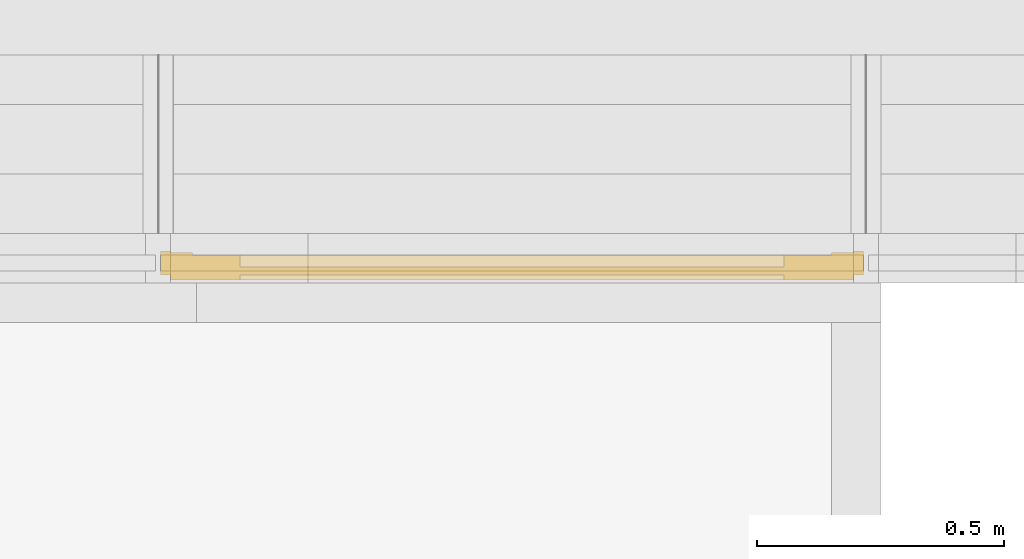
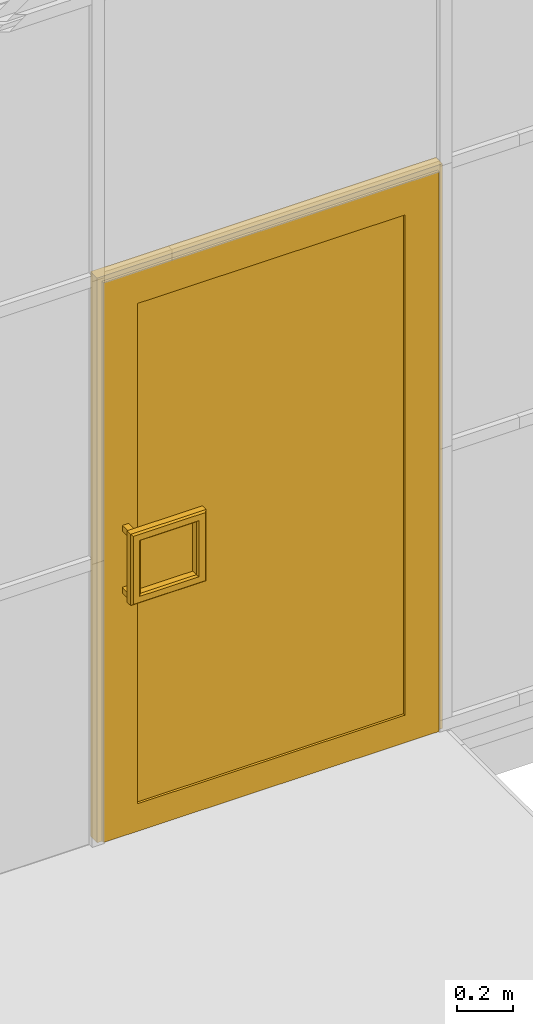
# One storey, part 239 of 260: 1 door, 1 element without a shape of its own.
"""IFC2X3 building model written with IfcOpenShell, lengths in millimetres."""

from ifc_helpers import new_model, entity, si_unit, converted_unit, derived_unit, money_unit, direction, frame, origin_with_axes, place, context, subcontext, project, spatial, faceted_brep, material, material_list, type_object, element, aggregate, save


model = new_model("IFC2X3")

# Units and contexts
model_context = context("Model", 3, precision=0.01, world=origin_with_axes(), true_north=direction((0.0, 1.0)))
body_context = subcontext(model_context, "Body", "Model", "MODEL_VIEW")
ifc_project = project(units=[si_unit("LENGTHUNIT", "METRE", prefix="MILLI"), si_unit("AREAUNIT", "SQUARE_METRE"), si_unit("VOLUMEUNIT", "CUBIC_METRE"), converted_unit("PLANEANGLEUNIT", "DEGREE", entity("IfcPlaneAngleMeasure", 0.0174532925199), si_unit("PLANEANGLEUNIT", "RADIAN"), dimensions=[0, 0, 0, 0, 0, 0, 0]), money_unit("EUR"), converted_unit("TIMEUNIT", "Year", entity("IfcTimeMeasure", 31556926.0), si_unit("TIMEUNIT", "SECOND"), dimensions=[0, 0, 1, 0, 0, 0, 0]), si_unit("MASSUNIT", "GRAM", prefix="KILO"), si_unit("THERMODYNAMICTEMPERATUREUNIT", "DEGREE_CELSIUS"), si_unit("LUMINOUSINTENSITYUNIT", "LUMEN"), si_unit("ENERGYUNIT", "JOULE", prefix="MEGA"), derived_unit("THERMALCONDUCTANCEUNIT", [(si_unit("POWERUNIT", "WATT"), 1), (si_unit("LENGTHUNIT", "METRE"), -1), (si_unit("THERMODYNAMICTEMPERATUREUNIT", "KELVIN"), -1)]), derived_unit("SPECIFICHEATCAPACITYUNIT", [(si_unit("ENERGYUNIT", "JOULE"), 1), (si_unit("MASSUNIT", "GRAM", prefix="KILO"), -1), (si_unit("THERMODYNAMICTEMPERATUREUNIT", "KELVIN"), -1)]), derived_unit("MASSDENSITYUNIT", [(si_unit("MASSUNIT", "GRAM", prefix="KILO"), 1), (si_unit("VOLUMEUNIT", "CUBIC_METRE"), -1)])], contexts=[model_context])

# Site, building, storey
site_placement = place(None, origin_with_axes())
site = spatial("IfcSite", under=ifc_project, at=site_placement, Name="Kolde pst 67a", CompositionType="ELEMENT")
building_placement = place(site_placement, origin_with_axes())
building = spatial("IfcBuilding", under=site, at=building_placement, Name="Riigigümnaasium", CompositionType="ELEMENT")
storey_placement = place(building_placement, origin_with_axes())
storey = spatial("IfcBuildingStorey", under=building, at=storey_placement, Name="1. korrus", CompositionType="ELEMENT", Elevation=0.0)

# Curtain wall, door
curtain_wall_type = type_object("IfcCurtainWallType", Name="Curtain Wall Type", PredefinedType="NOTDEFINED")
curtain_wall_placement = place(storey_placement, frame((47829.9854655, 8727.77020058, -0.000749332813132), z_axis=(0.0, 0.0, 1.0), x_axis=(1.0, 0.0, 0.0)))
curtain_wall = element("IfcCurtainWall", 1, at=curtain_wall_placement, inside=storey, type_object=curtain_wall_type, Name="KLAASFASSAAD")
ifc_material_1 = material(Name="_METALL - alumiinium")
ifc_material_2 = material(Name="_KLAAS - kirgas")
ifc_material_3 = material(Name="_METALL - teras")
ifc_material_4 = material(Name="Birch")
ifc_material_list = material_list([ifc_material_1, ifc_material_2, ifc_material_3, ifc_material_4])
door_style = type_object("IfcDoorStyle", Name="1122 x 1225 x 48", ConstructionType="NOTDEFINED", OperationType="SINGLE_SWING_LEFT", ParameterTakesPrecedence=False, Sizeable=False)
door_placement = place(curtain_wall_placement, frame((4982.63433096, -1457.77144978, 1230.00073817), z_axis=(0.0, 0.0, 1.0), x_axis=(-1.0, 2.70881141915e-07, 0.0)))
door = element("IfcDoor", 2, at=door_placement, type_object=door_style, material=ifc_material_list, Name="Peauks", ObjectType="DOOR", OverallHeight=2435.0, OverallWidth=1380.0, context=body_context, shape_type="Brep", body=[
    faceted_brep([(586.97709533, -20.9999996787, -1230.0000186), (586.977095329, -15.9999996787, -1230.0000186), (586.977095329, -15.9999996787, 1205.00001086), (586.97709533, -20.9999996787, 1205.00001086), (541.97709533, -20.9999996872, -1230.0000186), (541.977095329, -15.9999996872, -1230.0000186), (541.977095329, -15.9999996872, 1160.00001086), (541.97709533, -20.9999996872, 1160.00001086)], [[[0, 1, 2, 3]], [[4, 5, 1, 0]], [[1, 5, 6, 2]], [[3, 2, 6, 7]], [[0, 3, 7, 4]], [[7, 6, 5, 4]]]),
    faceted_brep([(-793.022921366, -20.9999999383, 1205.00001086), (-793.022921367, -15.9999999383, 1205.00001086), (-748.022921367, -15.9999999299, 1160.00001086), (-748.022921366, -20.9999999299, 1160.00001086), (586.97709533, -20.9999996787, 1205.00001086), (586.977095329, -15.9999996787, 1205.00001086), (541.977095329, -15.9999996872, 1160.00001086), (541.97709533, -20.9999996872, 1160.00001086)], [[[0, 1, 2, 3]], [[4, 5, 1, 0]], [[1, 5, 6, 2]], [[3, 2, 6, 7]], [[0, 3, 7, 4]], [[7, 6, 5, 4]]]),
    faceted_brep([(-793.022921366, -20.9999999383, -1230.0000186), (-793.022921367, -15.9999999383, -1230.0000186), (-748.022921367, -15.9999999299, -1230.0000186), (-748.022921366, -20.9999999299, -1230.0000186), (-793.022921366, -20.9999999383, 1205.00001086), (-793.022921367, -15.9999999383, 1205.00001086), (-748.022921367, -15.9999999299, 1160.00001086), (-748.022921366, -20.9999999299, 1160.00001086)], [[[0, 1, 2, 3]], [[4, 5, 1, 0]], [[1, 5, 6, 2]], [[3, 2, 6, 7]], [[0, 3, 7, 4]], [[7, 6, 5, 4]]]),
    faceted_brep([(586.977095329, -15.9999996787, -1230.0000186), (586.977095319, 34.0000003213, -1230.0000186), (586.977095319, 34.0000003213, 1205.00001086), (586.977095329, -15.9999996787, 1205.00001086), (566.977095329, -15.9999996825, -1230.0000186), (566.97709532, 34.0000003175, -1230.0000186), (566.97709532, 34.0000003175, 1185.00001086), (566.977095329, -15.9999996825, 1185.00001086)], [[[0, 1, 2, 3]], [[4, 5, 1, 0]], [[1, 5, 6, 2]], [[3, 2, 6, 7]], [[0, 3, 7, 4]], [[7, 6, 5, 4]]]),
    faceted_brep([(-793.022921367, -15.9999999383, 1205.00001086), (-793.022921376, 34.0000000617, 1205.00001086), (-773.022921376, 34.0000000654, 1185.00001086), (-773.022921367, -15.9999999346, 1185.00001086), (586.977095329, -15.9999996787, 1205.00001086), (586.977095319, 34.0000003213, 1205.00001086), (566.97709532, 34.0000003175, 1185.00001086), (566.977095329, -15.9999996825, 1185.00001086)], [[[0, 1, 2, 3]], [[4, 5, 1, 0]], [[1, 5, 6, 2]], [[3, 2, 6, 7]], [[0, 3, 7, 4]], [[7, 6, 5, 4]]]),
    faceted_brep([(-793.022921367, -15.9999999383, -1230.0000186), (-793.022921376, 34.0000000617, -1230.0000186), (-773.022921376, 34.0000000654, -1230.0000186), (-773.022921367, -15.9999999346, -1230.0000186), (-793.022921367, -15.9999999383, 1205.00001086), (-793.022921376, 34.0000000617, 1205.00001086), (-773.022921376, 34.0000000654, 1185.00001086), (-773.022921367, -15.9999999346, 1185.00001086)], [[[0, 1, 2, 3]], [[4, 5, 1, 0]], [[1, 5, 6, 2]], [[3, 2, 6, 7]], [[0, 3, 7, 4]], [[7, 6, 5, 4]]]),
    faceted_brep([(606.977095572, -23.999999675, -1230.0000186), (606.977095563, 24.000000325, -1230.0000186), (606.977095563, 24.000000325, 1225.0000111), (606.977095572, -23.999999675, 1225.0000111), (586.97709533, -23.9999996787, -1230.0000186), (586.977095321, 24.0000003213, -1230.0000186), (586.977095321, 24.0000003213, 1205.00001086), (586.97709533, -23.9999996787, 1205.00001086)], [[[0, 1, 2, 3]], [[4, 5, 1, 0]], [[1, 5, 6, 2]], [[3, 2, 6, 7]], [[0, 3, 7, 4]], [[7, 6, 5, 4]]]),
    faceted_brep([(606.977095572, -23.999999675, 1225.0000111), (606.977095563, 24.000000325, 1225.0000111), (-813.022921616, 24.0000000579, 1225.0000111), (-813.022921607, -23.9999999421, 1225.0000111), (586.97709533, -23.9999996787, 1205.00001086), (586.977095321, 24.0000003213, 1205.00001086), (-793.022921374, 24.0000000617, 1205.00001086), (-793.022921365, -23.9999999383, 1205.00001086)], [[[0, 1, 2, 3]], [[4, 5, 1, 0]], [[1, 5, 6, 2]], [[3, 2, 6, 7]], [[0, 3, 7, 4]], [[7, 6, 5, 4]]]),
    faceted_brep([(-813.022921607, -23.9999999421, 1225.0000111), (-813.022921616, 24.0000000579, 1225.0000111), (-813.022921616, 24.0000000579, -1230.0000186), (-813.022921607, -23.9999999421, -1230.0000186), (-793.022921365, -23.9999999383, 1205.00001086), (-793.022921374, 24.0000000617, 1205.00001086), (-793.022921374, 24.0000000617, -1230.0000186), (-793.022921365, -23.9999999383, -1230.0000186)], [[[0, 1, 2, 3]], [[4, 5, 1, 0]], [[1, 5, 6, 2]], [[3, 2, 6, 7]], [[0, 3, 7, 4]], [[7, 6, 5, 4]]]),
    faceted_brep([(-653.022921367, -15.999999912, -1110.0000186), (-653.022921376, 34.000000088, -1110.0000186), (-653.022921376, 34.000000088, 1065.00001086), (-653.022921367, -15.999999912, 1065.00001086), (-773.022921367, -15.9999999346, -1230.0000186), (-773.022921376, 34.0000000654, -1230.0000186), (-773.022921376, 34.0000000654, 1185.00001086), (-773.022921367, -15.9999999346, 1185.00001086)], [[[0, 1, 2, 3]], [[4, 5, 1, 0]], [[1, 5, 6, 2]], [[3, 2, 6, 7]], [[0, 3, 7, 4]], [[7, 6, 5, 4]]]),
    faceted_brep([(566.977095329, -15.9999996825, -1230.0000186), (566.97709532, 34.0000003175, -1230.0000186), (566.97709532, 34.0000003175, 1185.00001086), (566.977095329, -15.9999996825, 1185.00001086), (446.977095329, -15.9999997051, -1110.0000186), (446.97709532, 34.0000002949, -1110.0000186), (446.97709532, 34.0000002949, 1065.00001086), (446.977095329, -15.9999997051, 1065.00001086)], [[[0, 1, 2, 3]], [[4, 5, 1, 0]], [[1, 5, 6, 2]], [[3, 2, 6, 7]], [[0, 3, 7, 4]], [[7, 6, 5, 4]]]),
    faceted_brep([(566.977095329, -15.9999996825, -1230.0000186), (566.97709532, 34.0000003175, -1230.0000186), (446.97709532, 34.0000002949, -1110.0000186), (446.977095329, -15.9999997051, -1110.0000186), (-773.022921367, -15.9999999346, -1230.0000186), (-773.022921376, 34.0000000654, -1230.0000186), (-653.022921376, 34.000000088, -1110.0000186), (-653.022921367, -15.999999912, -1110.0000186)], [[[0, 1, 2, 3]], [[4, 5, 1, 0]], [[1, 5, 6, 2]], [[3, 2, 6, 7]], [[0, 3, 7, 4]], [[7, 6, 5, 4]]]),
    faceted_brep([(-773.022921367, -15.9999999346, 1185.00001086), (-773.022921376, 34.0000000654, 1185.00001086), (-653.022921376, 34.000000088, 1065.00001086), (-653.022921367, -15.999999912, 1065.00001086), (566.977095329, -15.9999996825, 1185.00001086), (566.97709532, 34.0000003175, 1185.00001086), (446.97709532, 34.0000002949, 1065.00001086), (446.977095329, -15.9999997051, 1065.00001086)], [[[0, 1, 2, 3]], [[4, 5, 1, 0]], [[1, 5, 6, 2]], [[3, 2, 6, 7]], [[0, 3, 7, 4]], [[7, 6, 5, 4]]]),
    faceted_brep([(-653.022921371, 8.00000008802, -1110.0000186), (-653.022921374, 24.000000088, -1110.0000186), (446.977095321, 24.0000002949, -1110.0000186), (446.977095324, 8.00000029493, -1110.0000186), (-653.022921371, 8.00000008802, 1065.00001086), (-653.022921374, 24.000000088, 1065.00001086), (446.977095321, 24.0000002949, 1065.00001086), (446.977095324, 8.00000029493, 1065.00001086)], [[[0, 1, 2, 3]], [[4, 5, 1, 0]], [[1, 5, 6, 2]], [[3, 2, 6, 7]], [[0, 3, 7, 4]], [[7, 6, 5, 4]]]),
    faceted_brep([(484.477095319, 34.000000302, -147.050018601), (509.47709532, 34.0000003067, -147.050018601), (509.477095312, 74.0000003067, -147.050018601), (484.477095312, 74.000000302, -147.050018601), (484.477095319, 34.000000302, -172.050018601), (509.47709532, 34.0000003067, -172.050018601), (509.477095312, 74.0000003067, -172.050018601), (484.477095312, 74.000000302, -172.050018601)], [[[0, 1, 2, 3]], [[0, 4, 5, 1]], [[1, 5, 6, 2]], [[3, 2, 6, 7]], [[4, 0, 3, 7]], [[5, 4, 7, 6]]]),
    faceted_brep([(484.027095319, 34.0000003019, 97.0499813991), (484.027095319, 34.0000003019, 122.049981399), (484.027095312, 74.0000003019, 122.049981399), (484.027095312, 74.0000003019, 97.0499813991), (509.02709532, 34.0000003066, 97.0499813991), (509.02709532, 34.0000003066, 122.049981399), (509.027095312, 74.0000003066, 122.049981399), (509.027095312, 74.0000003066, 97.0499813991)], [[[0, 1, 2, 3]], [[0, 4, 5, 1]], [[1, 5, 6, 2]], [[3, 2, 6, 7]], [[4, 0, 3, 7]], [[5, 4, 7, 6]]]),
    faceted_brep([(226.977095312, 74.0000002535, -160.000018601), (226.977095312, 74.0000002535, 109.999981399), (226.977095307, 99.0000002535, 109.999981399), (226.977095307, 99.0000002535, -160.000018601), (496.977095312, 74.0000003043, -160.000018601), (496.977095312, 74.0000003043, 109.999981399), (231.977095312, 74.0000002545, -155.000018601), (231.977095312, 74.0000002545, 104.999981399), (491.977095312, 74.0000003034, 104.999981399), (491.977095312, 74.0000003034, -155.000018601), (496.977095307, 99.0000003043, 109.999981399), (496.977095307, 99.0000003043, -160.000018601), (231.977095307, 99.0000002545, -155.000018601), (491.977095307, 99.0000003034, -155.000018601), (491.977095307, 99.0000003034, 104.999981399), (231.977095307, 99.0000002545, 104.999981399)], [[[0, 1, 2, 3]], [[0, 4, 5, 1], [6, 7, 8, 9]], [[1, 5, 10, 2]], [[3, 2, 10, 11], [12, 13, 14, 15]], [[4, 0, 3, 11]], [[5, 4, 11, 10]], [[7, 6, 12, 15]], [[8, 7, 15, 14]], [[9, 8, 14, 13]], [[6, 9, 13, 12]]]),
    faceted_brep([(246.977095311, 81.0500002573, -155.000018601), (239.927095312, 74.000000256, -155.000018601), (239.927095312, 74.000000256, -147.050018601), (246.977095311, 81.0500002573, -140.000018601), (491.977095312, 74.0000003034, -155.000018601), (246.977095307, 99.0000002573, -155.000018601), (491.977095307, 99.0000003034, -155.000018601), (491.977095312, 74.0000003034, -147.050018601), (491.977095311, 81.0500003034, -140.000018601), (246.977095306, 106.950000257, -140.000018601), (246.977095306, 106.950000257, -180.000018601), (246.977095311, 81.0500002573, -180.000018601), (246.977095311, 81.0500002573, -160.000018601), (246.977095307, 99.0000002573, -160.000018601), (496.977095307, 99.0000003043, -160.000018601), (496.977095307, 99.0000003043, -140.000018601), (491.977095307, 99.0000003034, -140.000018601), (496.977095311, 81.0500003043, -140.000018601), (516.977095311, 81.0500003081, -140.000018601), (516.977095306, 106.950000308, -140.000018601), (239.927095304, 114.000000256, -147.050018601), (239.927095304, 114.000000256, -172.950018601), (516.977095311, 81.0500003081, -180.000018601), (516.977095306, 106.950000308, -180.000018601), (239.927095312, 74.000000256, -160.000018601), (239.927095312, 74.000000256, -172.950018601), (496.977095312, 74.0000003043, -160.000018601), (496.977095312, 74.0000003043, -147.050018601), (509.927095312, 74.0000003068, -147.050018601), (509.927095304, 114.000000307, -147.050018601), (509.927095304, 114.000000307, -172.950018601), (509.927095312, 74.0000003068, -172.950018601)], [[[0, 1, 2, 3]], [[4, 1, 0, 5, 6]], [[4, 7, 2, 1]], [[7, 8, 3, 2]], [[5, 0, 3, 9, 10, 11, 12, 13]], [[5, 13, 14, 15, 16, 6]], [[16, 8, 7, 4, 6]], [[15, 17, 18, 19, 9, 3, 8, 16]], [[10, 9, 20, 21]], [[22, 11, 10, 23]], [[24, 12, 11, 25]], [[12, 24, 26, 14, 13]], [[17, 15, 14, 26, 27]], [[17, 27, 28, 18]], [[22, 23, 19, 18]], [[29, 20, 9, 19]], [[30, 21, 20, 29]], [[23, 10, 21, 30]], [[31, 25, 11, 22]], [[26, 24, 25, 31, 28, 27]], [[31, 22, 18, 28]], [[19, 23, 30, 29]]]),
    faceted_brep([(491.977095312, 74.0000003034, -147.050018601), (491.977095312, 74.0000003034, 97.0499813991), (484.027095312, 74.0000003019, 97.0499813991), (484.027095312, 74.0000003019, -147.050018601), (491.977095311, 81.0500003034, 89.9999813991), (491.977095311, 81.0500003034, -140.000018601), (491.977095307, 99.0000003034, -140.000018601), (491.977095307, 99.0000003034, 89.9999813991), (476.977095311, 81.0500003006, 89.9999813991), (476.977095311, 81.0500003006, -140.000018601), (476.977095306, 106.950000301, -140.000018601), (516.977095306, 106.950000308, -140.000018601), (516.977095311, 81.0500003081, -140.000018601), (496.977095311, 81.0500003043, -140.000018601), (496.977095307, 99.0000003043, -140.000018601), (496.977095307, 99.0000003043, 89.9999813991), (496.977095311, 81.0500003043, 89.9999813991), (516.977095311, 81.0500003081, 89.9999813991), (516.977095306, 106.950000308, 89.9999813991), (476.977095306, 106.950000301, 89.9999813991), (484.027095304, 114.000000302, -147.050018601), (509.927095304, 114.000000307, -147.050018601), (496.977095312, 74.0000003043, -147.050018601), (509.927095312, 74.0000003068, -147.050018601), (496.977095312, 74.0000003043, 97.0499813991), (509.927095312, 74.0000003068, 97.0499813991), (509.927095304, 114.000000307, 97.0499813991), (484.027095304, 114.000000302, 97.0499813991)], [[[0, 1, 2, 3]], [[4, 1, 0, 5, 6, 7]], [[1, 4, 8, 2]], [[8, 9, 3, 2]], [[5, 0, 3, 9]], [[6, 5, 9, 10, 11, 12, 13, 14]], [[15, 7, 6, 14]], [[15, 16, 17, 18, 19, 8, 4, 7]], [[19, 10, 9, 8]], [[11, 10, 20, 21]], [[17, 12, 11, 18]], [[22, 13, 12, 23]], [[22, 24, 16, 15, 14, 13]], [[16, 24, 25, 17]], [[26, 27, 19, 18]], [[27, 20, 10, 19]], [[26, 21, 20, 27]], [[18, 11, 21, 26]], [[25, 23, 12, 17]], [[24, 22, 23, 25]]]),
    faceted_brep([(496.977095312, 74.0000003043, 109.999981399), (496.977095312, 74.0000003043, 97.0499813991), (509.927095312, 74.0000003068, 97.0499813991), (509.927095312, 74.0000003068, 122.949981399), (214.027095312, 74.0000002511, 122.949981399), (214.027095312, 74.0000002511, 97.0499813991), (226.977095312, 74.0000002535, 97.0499813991), (226.977095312, 74.0000002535, 109.999981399), (496.977095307, 99.0000003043, 109.999981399), (496.977095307, 99.0000003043, 89.9999813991), (496.977095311, 81.0500003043, 89.9999813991), (516.977095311, 81.0500003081, 89.9999813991), (516.977095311, 81.0500003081, 129.999981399), (206.977095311, 81.0500002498, 129.999981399), (206.977095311, 81.0500002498, 89.9999813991), (226.977095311, 81.0500002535, 89.9999813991), (226.977095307, 99.0000002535, 89.9999813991), (226.977095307, 99.0000002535, 109.999981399), (231.977095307, 99.0000002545, 89.9999813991), (231.977095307, 99.0000002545, 104.999981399), (491.977095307, 99.0000003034, 104.999981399), (491.977095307, 99.0000003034, 89.9999813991), (206.977095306, 106.95000025, 89.9999813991), (516.977095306, 106.950000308, 89.9999813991), (491.977095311, 81.0500003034, 89.9999813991), (231.977095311, 81.0500002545, 89.9999813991), (516.977095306, 106.950000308, 129.999981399), (206.977095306, 106.95000025, 129.999981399), (231.977095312, 74.0000002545, 97.0499813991), (231.977095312, 74.0000002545, 104.999981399), (491.977095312, 74.0000003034, 104.999981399), (491.977095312, 74.0000003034, 97.0499813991), (214.027095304, 114.000000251, 97.0499813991), (509.927095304, 114.000000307, 97.0499813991), (509.927095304, 114.000000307, 122.949981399), (214.027095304, 114.000000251, 122.949981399)], [[[0, 1, 2, 3, 4, 5, 6, 7]], [[1, 0, 8, 9, 10]], [[1, 10, 11, 2]], [[11, 12, 3, 2]], [[4, 3, 12, 13]], [[5, 4, 13, 14]], [[15, 6, 5, 14]], [[7, 6, 15, 16, 17]], [[0, 7, 17, 8]], [[16, 18, 19, 20, 21, 9, 8, 17]], [[16, 15, 14, 22, 23, 11, 10, 9, 21, 24, 25, 18]], [[23, 26, 12, 11]], [[13, 12, 26, 27]], [[14, 13, 27, 22]], [[28, 29, 19, 18, 25]], [[29, 30, 20, 19]], [[30, 31, 24, 21, 20]], [[32, 33, 23, 22]], [[28, 25, 24, 31]], [[23, 33, 34, 26]], [[27, 26, 34, 35]], [[22, 27, 35, 32]], [[29, 28, 31, 30]], [[35, 34, 33, 32]]]),
    faceted_brep([(239.927095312, 74.000000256, -160.000018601), (226.977095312, 74.0000002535, -160.000018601), (226.977095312, 74.0000002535, 97.0499813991), (214.027095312, 74.0000002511, 97.0499813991), (214.027095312, 74.0000002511, -172.950018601), (239.927095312, 74.000000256, -172.950018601), (246.977095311, 81.0500002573, -160.000018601), (246.977095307, 99.0000002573, -160.000018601), (226.977095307, 99.0000002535, -160.000018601), (226.977095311, 81.0500002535, 89.9999813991), (226.977095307, 99.0000002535, 89.9999813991), (206.977095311, 81.0500002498, 89.9999813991), (206.977095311, 81.0500002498, -180.000018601), (246.977095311, 81.0500002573, -180.000018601), (246.977095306, 106.950000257, -180.000018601), (246.977095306, 106.950000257, 89.9999813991), (246.977095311, 81.0500002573, 89.9999813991), (246.977095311, 81.0500002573, -155.000018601), (246.977095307, 99.0000002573, -155.000018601), (231.977095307, 99.0000002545, 89.9999813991), (231.977095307, 99.0000002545, -155.000018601), (231.977095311, 81.0500002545, 89.9999813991), (206.977095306, 106.95000025, 89.9999813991), (206.977095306, 106.95000025, -180.000018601), (239.927095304, 114.000000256, -172.950018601), (239.927095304, 114.000000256, 97.0499813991), (239.927095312, 74.000000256, -155.000018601), (239.927095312, 74.000000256, 97.0499813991), (231.977095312, 74.0000002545, -155.000018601), (231.977095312, 74.0000002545, 97.0499813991), (214.027095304, 114.000000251, 97.0499813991), (214.027095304, 114.000000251, -172.950018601)], [[[0, 1, 2, 3, 4, 5]], [[1, 0, 6, 7, 8]], [[9, 2, 1, 8, 10]], [[2, 9, 11, 3]], [[4, 3, 11, 12]], [[13, 5, 4, 12]], [[6, 0, 5, 13]], [[7, 6, 13, 14, 15, 16, 17, 18]], [[19, 10, 8, 7, 18, 20]], [[19, 21, 16, 15, 22, 11, 9, 10]], [[12, 11, 22, 23]], [[14, 13, 12, 23]], [[24, 25, 15, 14]], [[26, 17, 16, 27]], [[26, 28, 20, 18, 17]], [[28, 29, 21, 19, 20]], [[21, 29, 27, 16]], [[25, 30, 22, 15]], [[23, 22, 30, 31]], [[24, 14, 23, 31]], [[31, 30, 25, 24]], [[28, 26, 27, 29]]]),
    faceted_brep([(484.477095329, -15.999999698, -147.050018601), (484.477095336, -55.999999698, -147.050018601), (509.477095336, -55.9999996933, -147.050018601), (509.477095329, -15.9999996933, -147.050018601), (484.477095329, -15.999999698, -172.050018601), (484.477095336, -55.999999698, -172.050018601), (509.477095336, -55.9999996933, -172.050018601), (509.477095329, -15.9999996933, -172.050018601)], [[[0, 1, 2, 3]], [[4, 5, 1, 0]], [[1, 5, 6, 2]], [[3, 2, 6, 7]], [[0, 3, 7, 4]], [[7, 6, 5, 4]]]),
    faceted_brep([(484.027095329, -15.9999996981, 97.0499813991), (484.027095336, -55.9999996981, 97.0499813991), (484.027095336, -55.9999996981, 122.049981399), (484.027095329, -15.9999996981, 122.049981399), (509.027095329, -15.9999996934, 97.0499813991), (509.027095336, -55.9999996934, 97.0499813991), (509.027095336, -55.9999996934, 122.049981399), (509.027095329, -15.9999996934, 122.049981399)], [[[0, 1, 2, 3]], [[4, 5, 1, 0]], [[1, 5, 6, 2]], [[3, 2, 6, 7]], [[0, 3, 7, 4]], [[7, 6, 5, 4]]]),
    faceted_brep([(226.977095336, -55.9999997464, -160.000018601), (226.977095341, -80.9999997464, -160.000018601), (226.977095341, -80.9999997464, 109.999981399), (226.977095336, -55.9999997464, 109.999981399), (496.977095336, -55.9999996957, -160.000018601), (496.977095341, -80.9999996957, -160.000018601), (496.977095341, -80.9999996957, 109.999981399), (231.977095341, -80.9999997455, -155.000018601), (231.977095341, -80.9999997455, 104.999981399), (491.977095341, -80.9999996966, 104.999981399), (491.977095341, -80.9999996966, -155.000018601), (496.977095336, -55.9999996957, 109.999981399), (231.977095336, -55.9999997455, -155.000018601), (491.977095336, -55.9999996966, -155.000018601), (491.977095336, -55.9999996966, 104.999981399), (231.977095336, -55.9999997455, 104.999981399)], [[[0, 1, 2, 3]], [[4, 5, 1, 0]], [[1, 5, 6, 2], [7, 8, 9, 10]], [[3, 2, 6, 11]], [[0, 3, 11, 4], [12, 13, 14, 15]], [[11, 6, 5, 4]], [[15, 8, 7, 12]], [[14, 9, 8, 15]], [[13, 10, 9, 14]], [[12, 7, 10, 13]]]),
    faceted_brep([(246.977095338, -63.0499997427, -155.000018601), (246.977095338, -63.0499997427, -140.000018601), (239.927095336, -55.999999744, -147.050018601), (239.927095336, -55.999999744, -155.000018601), (246.977095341, -80.9999997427, -155.000018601), (246.977095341, -80.9999997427, -160.000018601), (246.977095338, -63.0499997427, -160.000018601), (246.977095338, -63.0499997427, -180.000018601), (246.977095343, -88.9499997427, -180.000018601), (246.977095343, -88.9499997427, -140.000018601), (491.977095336, -55.9999996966, -147.050018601), (491.977095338, -63.0499996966, -140.000018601), (491.977095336, -55.9999996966, -155.000018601), (491.977095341, -80.9999996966, -155.000018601), (491.977095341, -80.9999996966, -140.000018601), (496.977095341, -80.9999996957, -140.000018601), (496.977095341, -80.9999996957, -160.000018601), (496.977095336, -55.9999996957, -160.000018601), (239.927095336, -55.999999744, -160.000018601), (239.927095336, -55.999999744, -172.950018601), (516.977095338, -63.0499996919, -180.000018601), (516.977095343, -88.9499996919, -180.000018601), (239.927095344, -95.999999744, -172.950018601), (239.927095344, -95.999999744, -147.050018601), (516.977095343, -88.9499996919, -140.000018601), (516.977095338, -63.0499996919, -140.000018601), (496.977095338, -63.0499996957, -140.000018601), (496.977095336, -55.9999996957, -147.050018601), (509.927095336, -55.9999996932, -147.050018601), (509.927095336, -55.9999996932, -172.950018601), (509.927095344, -95.9999996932, -172.950018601), (509.927095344, -95.9999996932, -147.050018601)], [[[0, 1, 2, 3]], [[4, 5, 6, 7, 8, 9, 1, 0]], [[10, 2, 1, 11]], [[12, 3, 2, 10]], [[12, 13, 4, 0, 3]], [[4, 13, 14, 15, 16, 5]], [[6, 5, 16, 17, 18]], [[18, 19, 7, 6]], [[20, 21, 8, 7]], [[8, 22, 23, 9]], [[15, 14, 11, 1, 9, 24, 25, 26]], [[14, 13, 12, 10, 11]], [[26, 27, 17, 16, 15]], [[17, 27, 28, 29, 19, 18]], [[29, 20, 7, 19]], [[20, 25, 24, 21]], [[21, 30, 22, 8]], [[30, 31, 23, 22]], [[31, 24, 9, 23]], [[26, 25, 28, 27]], [[29, 28, 25, 20]], [[24, 31, 30, 21]]]),
    faceted_brep([(491.977095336, -55.9999996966, -147.050018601), (484.027095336, -55.9999996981, -147.050018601), (484.027095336, -55.9999996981, 97.0499813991), (491.977095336, -55.9999996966, 97.0499813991), (491.977095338, -63.0499996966, -140.000018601), (476.977095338, -63.0499996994, -140.000018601), (476.977095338, -63.0499996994, 89.9999813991), (491.977095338, -63.0499996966, 89.9999813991), (491.977095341, -80.9999996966, 89.9999813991), (491.977095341, -80.9999996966, -140.000018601), (496.977095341, -80.9999996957, -140.000018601), (496.977095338, -63.0499996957, -140.000018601), (516.977095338, -63.0499996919, -140.000018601), (516.977095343, -88.9499996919, -140.000018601), (476.977095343, -88.9499996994, -140.000018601), (476.977095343, -88.9499996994, 89.9999813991), (496.977095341, -80.9999996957, 89.9999813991), (516.977095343, -88.9499996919, 89.9999813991), (516.977095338, -63.0499996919, 89.9999813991), (496.977095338, -63.0499996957, 89.9999813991), (496.977095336, -55.9999996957, -147.050018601), (496.977095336, -55.9999996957, 97.0499813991), (509.927095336, -55.9999996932, -147.050018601), (509.927095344, -95.9999996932, -147.050018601), (484.027095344, -95.9999996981, -147.050018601), (484.027095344, -95.9999996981, 97.0499813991), (509.927095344, -95.9999996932, 97.0499813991), (509.927095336, -55.9999996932, 97.0499813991)], [[[0, 1, 2, 3]], [[4, 5, 1, 0]], [[6, 2, 1, 5]], [[3, 2, 6, 7]], [[7, 8, 9, 4, 0, 3]], [[9, 10, 11, 12, 13, 14, 5, 4]], [[15, 6, 5, 14]], [[16, 8, 7, 6, 15, 17, 18, 19]], [[16, 10, 9, 8]], [[20, 11, 10, 16, 19, 21]], [[20, 22, 12, 11]], [[18, 17, 13, 12]], [[13, 23, 24, 14]], [[25, 15, 14, 24]], [[26, 17, 15, 25]], [[19, 18, 27, 21]], [[21, 27, 22, 20]], [[27, 18, 12, 22]], [[17, 26, 23, 13]], [[26, 25, 24, 23]]]),
    faceted_brep([(496.977095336, -55.9999996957, 109.999981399), (226.977095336, -55.9999997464, 109.999981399), (226.977095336, -55.9999997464, 97.0499813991), (214.027095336, -55.9999997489, 97.0499813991), (214.027095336, -55.9999997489, 122.949981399), (509.927095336, -55.9999996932, 122.949981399), (509.927095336, -55.9999996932, 97.0499813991), (496.977095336, -55.9999996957, 97.0499813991), (496.977095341, -80.9999996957, 109.999981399), (226.977095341, -80.9999997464, 109.999981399), (226.977095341, -80.9999997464, 89.9999813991), (226.977095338, -63.0499997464, 89.9999813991), (206.977095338, -63.0499997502, 89.9999813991), (206.977095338, -63.0499997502, 129.999981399), (516.977095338, -63.0499996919, 129.999981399), (516.977095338, -63.0499996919, 89.9999813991), (496.977095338, -63.0499996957, 89.9999813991), (496.977095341, -80.9999996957, 89.9999813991), (491.977095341, -80.9999996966, 89.9999813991), (491.977095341, -80.9999996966, 104.999981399), (231.977095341, -80.9999997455, 104.999981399), (231.977095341, -80.9999997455, 89.9999813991), (231.977095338, -63.0499997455, 89.9999813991), (491.977095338, -63.0499996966, 89.9999813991), (516.977095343, -88.9499996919, 89.9999813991), (206.977095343, -88.9499997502, 89.9999813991), (206.977095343, -88.9499997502, 129.999981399), (516.977095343, -88.9499996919, 129.999981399), (491.977095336, -55.9999996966, 104.999981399), (491.977095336, -55.9999996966, 97.0499813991), (231.977095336, -55.9999997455, 104.999981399), (231.977095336, -55.9999997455, 97.0499813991), (214.027095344, -95.9999997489, 97.0499813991), (509.927095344, -95.9999996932, 97.0499813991), (214.027095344, -95.9999997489, 122.949981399), (509.927095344, -95.9999996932, 122.949981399)], [[[0, 1, 2, 3, 4, 5, 6, 7]], [[0, 8, 9, 1]], [[1, 9, 10, 11, 2]], [[11, 12, 3, 2]], [[3, 12, 13, 4]], [[4, 13, 14, 5]], [[15, 6, 5, 14]], [[7, 6, 15, 16]], [[7, 16, 17, 8, 0]], [[10, 9, 8, 17, 18, 19, 20, 21]], [[10, 21, 22, 23, 18, 17, 16, 15, 24, 25, 12, 11]], [[12, 25, 26, 13]], [[13, 26, 27, 14]], [[24, 15, 14, 27]], [[28, 19, 18, 23, 29]], [[30, 20, 19, 28]], [[31, 22, 21, 20, 30]], [[31, 29, 23, 22]], [[32, 25, 24, 33]], [[25, 32, 34, 26]], [[26, 34, 35, 27]], [[24, 27, 35, 33]], [[30, 28, 29, 31]], [[34, 32, 33, 35]]]),
    faceted_brep([(239.927095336, -55.999999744, -160.000018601), (239.927095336, -55.999999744, -172.950018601), (214.027095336, -55.9999997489, -172.950018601), (214.027095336, -55.9999997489, 97.0499813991), (226.977095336, -55.9999997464, 97.0499813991), (226.977095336, -55.9999997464, -160.000018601), (246.977095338, -63.0499997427, -160.000018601), (246.977095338, -63.0499997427, -180.000018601), (206.977095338, -63.0499997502, -180.000018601), (206.977095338, -63.0499997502, 89.9999813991), (226.977095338, -63.0499997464, 89.9999813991), (226.977095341, -80.9999997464, 89.9999813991), (226.977095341, -80.9999997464, -160.000018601), (246.977095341, -80.9999997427, -160.000018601), (246.977095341, -80.9999997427, -155.000018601), (246.977095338, -63.0499997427, -155.000018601), (246.977095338, -63.0499997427, 89.9999813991), (246.977095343, -88.9499997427, 89.9999813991), (246.977095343, -88.9499997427, -180.000018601), (206.977095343, -88.9499997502, -180.000018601), (206.977095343, -88.9499997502, 89.9999813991), (231.977095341, -80.9999997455, 89.9999813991), (231.977095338, -63.0499997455, 89.9999813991), (231.977095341, -80.9999997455, -155.000018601), (239.927095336, -55.999999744, -155.000018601), (231.977095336, -55.9999997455, -155.000018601), (239.927095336, -55.999999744, 97.0499813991), (239.927095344, -95.999999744, -172.950018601), (239.927095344, -95.999999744, 97.0499813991), (214.027095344, -95.9999997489, -172.950018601), (214.027095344, -95.9999997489, 97.0499813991), (231.977095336, -55.9999997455, 97.0499813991)], [[[0, 1, 2, 3, 4, 5]], [[6, 7, 1, 0]], [[7, 8, 2, 1]], [[2, 8, 9, 3]], [[4, 3, 9, 10]], [[10, 11, 12, 5, 4]], [[5, 12, 13, 6, 0]], [[13, 14, 15, 16, 17, 18, 7, 6]], [[18, 19, 8, 7]], [[8, 19, 20, 9]], [[21, 11, 10, 9, 20, 17, 16, 22]], [[21, 23, 14, 13, 12, 11]], [[24, 15, 14, 23, 25]], [[24, 26, 16, 15]], [[27, 18, 17, 28]], [[27, 29, 19, 18]], [[19, 29, 30, 20]], [[28, 17, 20, 30]], [[22, 16, 26, 31]], [[25, 23, 21, 22, 31]], [[25, 31, 26, 24]], [[29, 27, 28, 30]]]),
])
aggregate(curtain_wall, [door])

save(model, "model.ifc")
